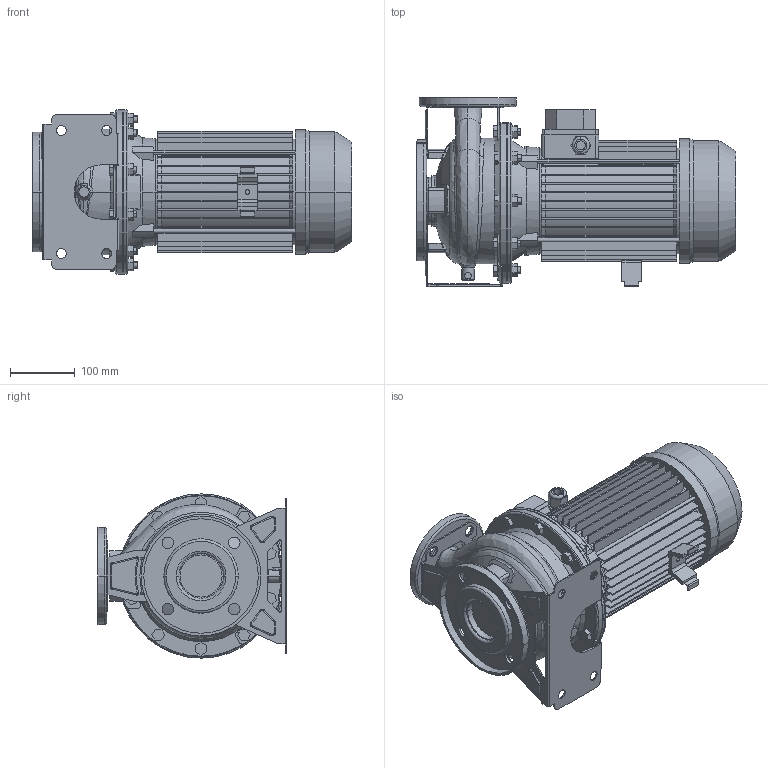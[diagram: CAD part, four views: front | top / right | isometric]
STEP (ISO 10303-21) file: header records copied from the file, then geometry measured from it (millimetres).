
FILE_DESCRIPTION((''),'2;1');
FILE_NAME('3M_40-160_4_IE2_ASM','2011-04-22T',('Utente'),('"Ebara Pumps Europe +39.444.706811"'),'PRO/ENGINEER BY PARAMETRIC TECHNOLOGY CORPORATION, 2009360','PRO/ENGINEER BY PARAMETRIC TECHNOLOGY CORPORATION, 2009360','');
FILE_SCHEMA(('AUTOMOTIVE_DESIGN { 1 0 10303 214 1 1 1 1 }'));
Length unit declared in the file: millimetre
Products named in the file (11): CORPO_40-160; ASP_40-160; FLANGIA_DIN_65; MAND_40-160; FLANGIA_DIN_40; BASE_3M_40-160; CORPO_SALDATO_40-160_ASM; SUPPORTO_3M_190_100; MEC_100X170_IE2; SOSTEGNO_72005; 3M_40-160_4_IE2_ASM
Assembly tree (10 placements, depth 3):
  3M_40-160_4_IE2_ASM
    CORPO_SALDATO_40-160_ASM
      CORPO_40-160
      ASP_40-160
      FLANGIA_DIN_65
      MAND_40-160
      FLANGIA_DIN_40
      BASE_3M_40-160
    SUPPORTO_3M_190_100
    MEC_100X170_IE2
    SOSTEGNO_72005
Bounding box: 494 x 292 x 254 mm (x, y, z)
Volume: 8596010.2 mm3; surface area: 1218138.5 mm2
Topology: 12 solids, 12 shells, 1052 faces, 2676 edges, 1705 vertices
Faces by surface type: plane 557, cylinder 301, cone 94, torus 60, bspline 34, sphere 6
Entity records: 41043 total; most frequent: CARTESIAN_POINT 9138, DIRECTION 5476, ORIENTED_EDGE 5352, EDGE_CURVE 2676, AXIS2_PLACEMENT_3D 2002, VERTEX_POINT 1705, VECTOR 1472, LINE 1472
